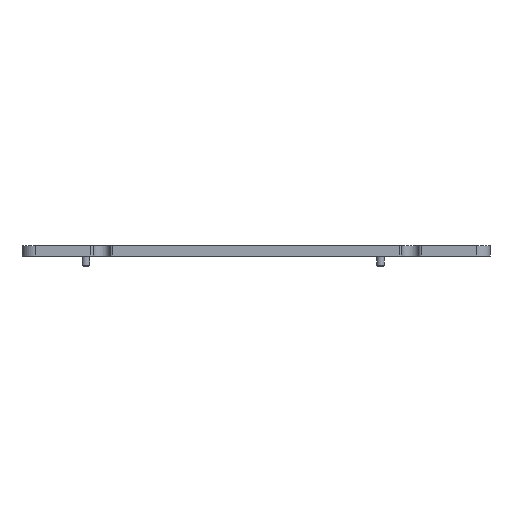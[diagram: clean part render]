
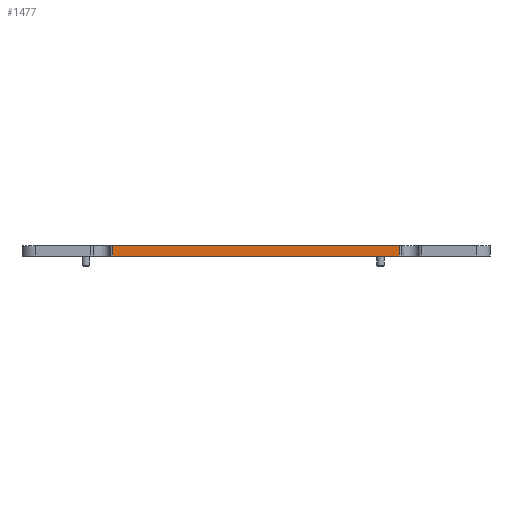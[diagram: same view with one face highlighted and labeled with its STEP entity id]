
A CAD part, left-side view. The second image highlights one B-rep face of the part: STEP entity #1477.
In plain terms, the highlighted planar face has unit normal (-1, 0, 0).
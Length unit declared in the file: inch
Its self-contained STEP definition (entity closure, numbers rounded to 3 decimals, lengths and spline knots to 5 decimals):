
#244=CARTESIAN_POINT('',(0.,-1.6915,0.1875));
#245=VERTEX_POINT('',#244);
#253=CARTESIAN_POINT('',(0.,-7.0285,0.1875));
#254=VERTEX_POINT('',#253);
#255=CARTESIAN_POINT('',(0.,-7.0285,0.1875));
#256=DIRECTION('',(0.0,1.0,0.0));
#257=VECTOR('',#256,5.337);
#258=LINE('',#255,#257);
#259=EDGE_CURVE('',#254,#245,#258,.T.);
#620=CARTESIAN_POINT('',(0.,-7.0285,0.0));
#621=VERTEX_POINT('',#620);
#629=CARTESIAN_POINT('',(0.,-1.6915,0.0));
#630=VERTEX_POINT('',#629);
#631=CARTESIAN_POINT('',(0.,-1.6915,0.0));
#632=DIRECTION('',(0.0,-1.0,0.0));
#633=VECTOR('',#632,5.337);
#634=LINE('',#631,#633);
#635=EDGE_CURVE('',#630,#621,#634,.T.);
#1450=CARTESIAN_POINT('',(0.,-7.0285,0.0));
#1451=DIRECTION('',(0.0,0.0,1.0));
#1452=VECTOR('',#1451,0.1875);
#1453=LINE('',#1450,#1452);
#1454=EDGE_CURVE('',#621,#254,#1453,.T.);
#1461=CARTESIAN_POINT('',(0.,-7.0285,0.0));
#1462=DIRECTION('',(-1.0,0.0,0.0));
#1463=DIRECTION('',(0.0,0.0,1.0));
#1464=AXIS2_PLACEMENT_3D('',#1461,#1462,#1463);
#1465=PLANE('',#1464);
#1466=ORIENTED_EDGE('',*,*,#259,.T.);
#1467=CARTESIAN_POINT('',(0.,-1.6915,0.0));
#1468=DIRECTION('',(0.0,0.0,1.0));
#1469=VECTOR('',#1468,0.1875);
#1470=LINE('',#1467,#1469);
#1471=EDGE_CURVE('',#630,#245,#1470,.T.);
#1472=ORIENTED_EDGE('',*,*,#1471,.F.);
#1473=ORIENTED_EDGE('',*,*,#635,.T.);
#1474=ORIENTED_EDGE('',*,*,#1454,.T.);
#1475=EDGE_LOOP('',(#1466,#1472,#1473,#1474));
#1476=FACE_OUTER_BOUND('',#1475,.T.);
#1477=ADVANCED_FACE('',(#1476),#1465,.T.);
